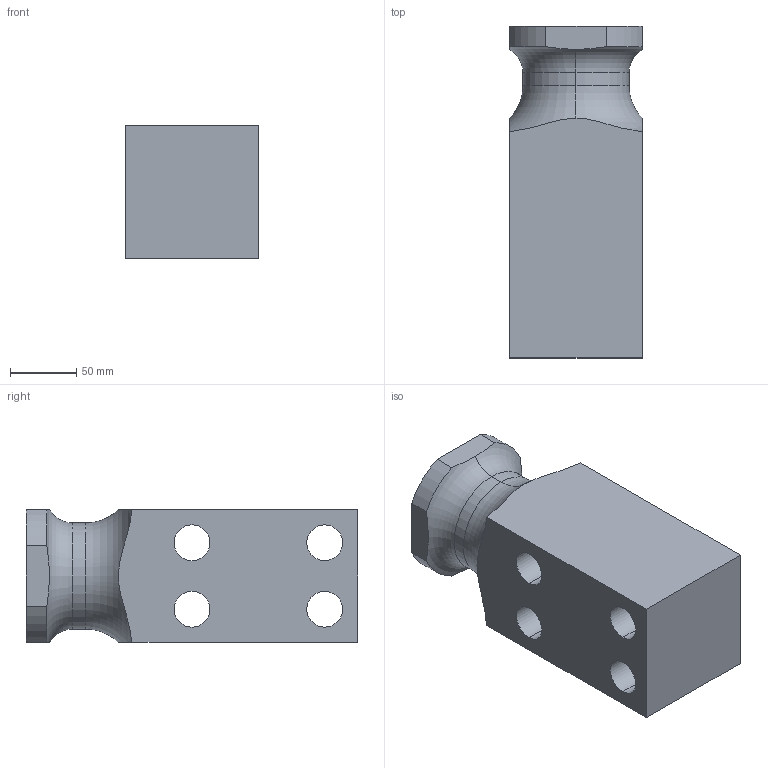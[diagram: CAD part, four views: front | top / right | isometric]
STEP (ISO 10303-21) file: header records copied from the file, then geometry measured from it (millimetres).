
FILE_DESCRIPTION(('CATIA V5 STEP Exchange'),'2;1');
FILE_NAME('C:\Users\Utente\Desktop\3D files 395V\395V-04-100-250.stp','2020-04-10T11:12:03+00:00',('none'),('none'),'CATIA Version 5 Release 20 GA (IN-10)','CATIA V5 STEP AP203','none');
FILE_SCHEMA(('CONFIG_CONTROL_DESIGN'));
Length unit declared in the file: millimetre
Products named in the file (1): 395V-04-100-250
Bounding box: 100 x 250 x 100 mm (x, y, z)
Volume: 1953408.4 mm3; surface area: 147236.1 mm2
Topology: 1 solids, 1 shells, 40 faces, 138 edges, 104 vertices
Faces by surface type: cylinder 22, plane 14, torus 4
Entity records: 1957 total; most frequent: CARTESIAN_POINT 736, ORIENTED_EDGE 276, DIRECTION 186, EDGE_CURVE 138, AXIS2_PLACEMENT_3D 109, VERTEX_POINT 104, CIRCLE 68, EDGE_LOOP 52
